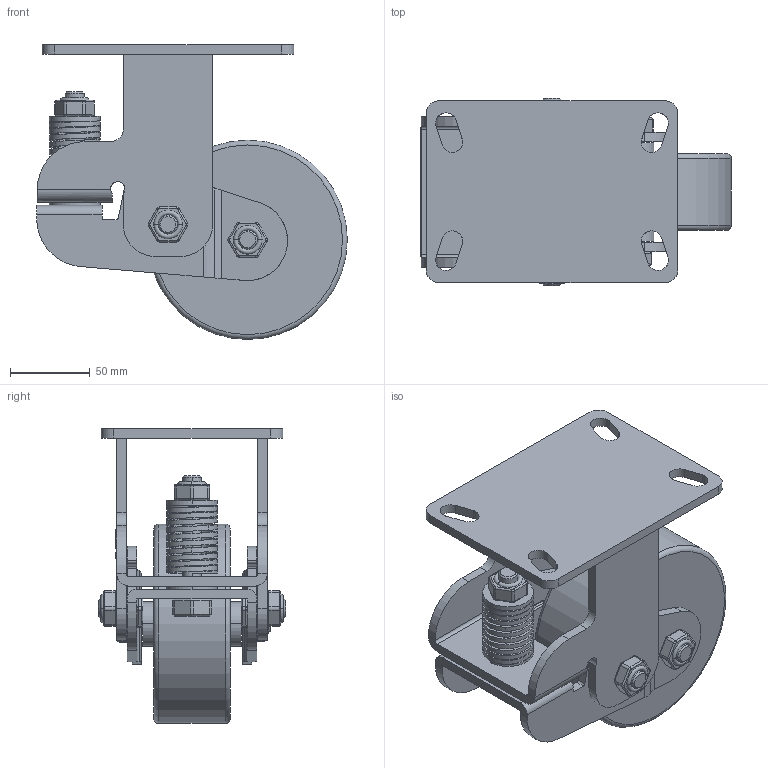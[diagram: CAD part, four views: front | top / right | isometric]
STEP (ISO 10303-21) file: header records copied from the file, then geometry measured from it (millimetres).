
FILE_DESCRIPTION(/* description */ (''),/* implementation_level */ '2;1');
FILE_NAME(/* name */ '45C32_5_F.stp',/* time_stamp */ '2022-10-07T11:02:24+08:00',/* author */ (''),/* organization */ (''),/* preprocessor_version */ 'ST-DEVELOPER v14',/* originating_system */ 'SIEMENS PLM Software NX 8.0',/* authorisation */ '');
FILE_SCHEMA (('AUTOMOTIVE_DESIGN { 1 0 10303 214 3 1 1 1 }'));
Length unit declared in the file: millimetre
Products named in the file (1): 45C32_5_F
Bounding box: 194.85 x 117.38 x 185 mm (x, y, z)
Volume: 976259 mm3; surface area: 189865.2 mm2
Topology: 1 solids, 4 shells, 678 faces, 1733 edges, 1098 vertices
Faces by surface type: plane 313, cylinder 233, bspline 48, torus 46, cone 38
Full cylindrical faces by diameter (mm): 125 x1
Entity records: 25256 total; most frequent: CARTESIAN_POINT 8944, ORIENTED_EDGE 3460, DIRECTION 3369, EDGE_CURVE 1730, AXIS2_PLACEMENT_3D 1274, VERTEX_POINT 1098, LINE 821, VECTOR 821
